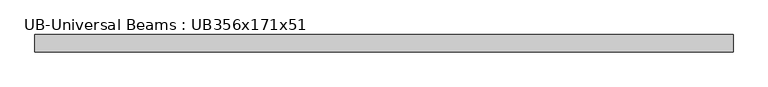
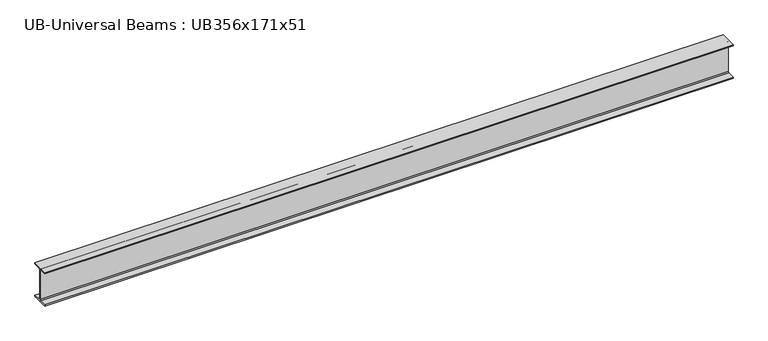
"""IFC4 building model written with IfcOpenShell, lengths in millimetres: beam geometry, UB-Universal Beams : UB356x171x51."""

from ifc_helpers import new_model, si_unit, point, frame, frame_2d, origin, place, context, project, spatial, polyline, circle_curve, trimmed, segment, composite_curve, outline, extrude, source, transform, mapped, element, save


def ub_universal_beams_ub356x171x51_995f1560(model_context):
    return source(origin(), model_context, "Body", "SweptSolid", [
        extrude(outline(composite_curve([segment(polyline([(85.75, -166.0), (85.75, -177.5), (-85.75, -177.5), (-85.75, -166.0), (-13.9, -166.0)]), True, "CONTINUOUS"), segment(trimmed(circle_curve(frame_2d((-13.9, -155.8)), 10.2), [point((-13.9, -166.0))], [point((-3.7, -155.8))], True, "CARTESIAN"), True, "CONTINUOUS"), segment(polyline([(-3.7, -155.8), (-3.7, 155.8)]), True, "CONTINUOUS"), segment(trimmed(circle_curve(frame_2d((-13.9, 155.8)), 10.2), [point((-3.7, 155.8))], [point((-13.9, 166.0))], True, "CARTESIAN"), True, "CONTINUOUS"), segment(polyline([(-13.9, 166.0), (-85.75, 166.0), (-85.75, 177.5), (85.75, 177.5), (85.75, 166.0), (13.9, 166.0)]), True, "CONTINUOUS"), segment(trimmed(circle_curve(frame_2d((13.9, 155.8)), 10.2), [point((13.9, 166.0))], [point((3.7, 155.8))], True, "CARTESIAN"), True, "CONTINUOUS"), segment(polyline([(3.7, 155.8), (3.7, -155.8)]), True, "CONTINUOUS"), segment(trimmed(circle_curve(frame_2d((13.9, -155.8)), 10.2), [point((3.7, -155.8))], [point((13.9, -166.0))], True, "CARTESIAN"), True, "CONTINUOUS"), segment(polyline([(13.9, -166.0), (85.75, -166.0)]), True, "CONTINUOUS")], self_intersect=False)), frame((-3490.1, 0.0, 0.0), z_axis=(1.0, 0.0, 0.0), x_axis=(0.0, 1.0, 0.0)), (0.0, 0.0, 1.0), 6920.2),
    ])


if __name__ == "__main__":
    model = new_model("IFC4")
    model_context = context("Model", 3, world=origin())
    ifc_project = project(units=[si_unit("LENGTHUNIT", "METRE", prefix="MILLI")], contexts=[model_context])
    site = spatial("IfcSite", under=ifc_project)
    building = spatial("IfcBuilding", under=site)
    placement = place(None, origin())
    ub_universal_beams_ub356x171x51_shape = ub_universal_beams_ub356x171x51_995f1560(model_context)
    element("IfcBeam", 1, ObjectType="UB-Universal Beams : UB356x171x51", at=placement, inside=building, context=model_context, shape_type="MappedRepresentation", body=[
        mapped(ub_universal_beams_ub356x171x51_shape, transform((0.0, 0.0, 0.0), x_axis=(1.0, 0.0, 0.0), y_axis=(0.0, 1.0, 0.0), z_axis=(0.0, 0.0, 1.0))),
    ])
    save(model, "model.ifc")
